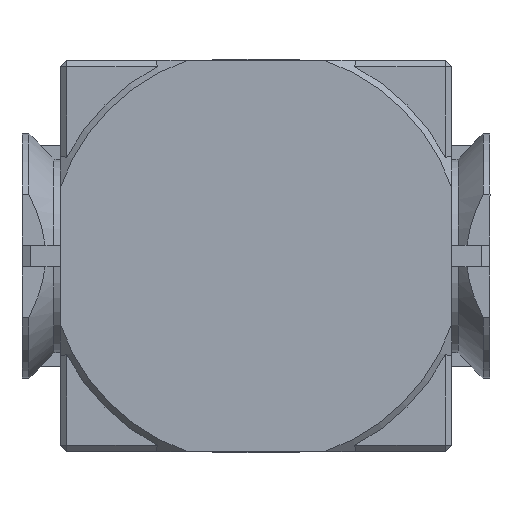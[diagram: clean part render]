
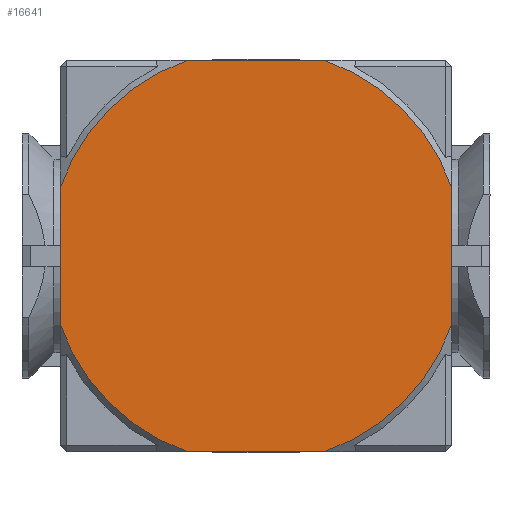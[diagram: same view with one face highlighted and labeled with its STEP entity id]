
A CAD part, front view. The second image highlights one B-rep face of the part: STEP entity #16641.
In plain terms, the highlighted planar face has unit normal (0, -1, 0).
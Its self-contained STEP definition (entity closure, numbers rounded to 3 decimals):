
#1756 = CARTESIAN_POINT ( 'NONE',  ( 11.122, -40.7, 31.6 ) ) ;
#1757 = DIRECTION ( 'NONE',  ( -1., 0., 0. ) ) ;
#1758 = VECTOR ( 'NONE', #1757, 1000. ) ;
#1759 = CARTESIAN_POINT ( 'NONE',  ( 11.122, -40.7, 31.6 ) ) ;
#1760 = LINE ( 'NONE', #1759, #1758 ) ;
#1761 = CARTESIAN_POINT ( 'NONE',  ( -11.122, -40.7, 31.6 ) ) ;
#1933 = CARTESIAN_POINT ( 'NONE',  ( -11.122, -40.7, -31.6 ) ) ;
#1934 = DIRECTION ( 'NONE',  ( 1., 0., 0. ) ) ;
#1935 = VECTOR ( 'NONE', #1934, 1000. ) ;
#1936 = CARTESIAN_POINT ( 'NONE',  ( -11.122, -40.7, -31.6 ) ) ;
#1937 = LINE ( 'NONE', #1936, #1935 ) ;
#1938 = CARTESIAN_POINT ( 'NONE',  ( 11.122, -40.7, -31.6 ) ) ;
#2359 = CARTESIAN_POINT ( 'NONE',  ( -31.6, -40.7, 11.122 ) ) ;
#2360 = CARTESIAN_POINT ( 'NONE',  ( -31.6, -40.7, -11.122 ) ) ;
#3176 = CARTESIAN_POINT ( 'NONE',  ( 31.6, -40.7, -11.122 ) ) ;
#3177 = DIRECTION ( 'NONE',  ( 0., 0., 1. ) ) ;
#3178 = VECTOR ( 'NONE', #3177, 1000. ) ;
#3179 = CARTESIAN_POINT ( 'NONE',  ( 31.6, -40.7, -11.122 ) ) ;
#3180 = LINE ( 'NONE', #3179, #3178 ) ;
#3305 = CARTESIAN_POINT ( 'NONE',  ( 31.6, -40.7, 11.122 ) ) ;
#3345 = DIRECTION ( 'NONE',  ( 0., 0., -1. ) ) ;
#3346 = VECTOR ( 'NONE', #3345, 1000. ) ;
#3347 = CARTESIAN_POINT ( 'NONE',  ( -31.6, -40.7, 11.122 ) ) ;
#3348 = LINE ( 'NONE', #3347, #3346 ) ;
#6913 = DIRECTION ( 'NONE',  ( 1., 0., 0. ) ) ;
#6914 = DIRECTION ( 'NONE',  ( 0., -1., 0. ) ) ;
#6915 = CARTESIAN_POINT ( 'NONE',  ( 0., -40.7, 0. ) ) ;
#6916 = AXIS2_PLACEMENT_3D ( 'NONE', #6915, #6914, #6913 ) ;
#6917 = CIRCLE ( 'NONE', #6916, 33.5 ) ;
#6944 = DIRECTION ( 'NONE',  ( 1., 0., 0. ) ) ;
#6945 = DIRECTION ( 'NONE',  ( 0., -1., 0. ) ) ;
#6946 = CARTESIAN_POINT ( 'NONE',  ( 0., -40.7, 0. ) ) ;
#6947 = AXIS2_PLACEMENT_3D ( 'NONE', #6946, #6945, #6944 ) ;
#6948 = PLANE ( 'NONE',  #6947 ) ;
#6949 = FACE_OUTER_BOUND ( 'NONE', #16642, .T. ) ;
#6950 = DIRECTION ( 'NONE',  ( 1., 0., 0. ) ) ;
#6951 = DIRECTION ( 'NONE',  ( 0., -1., 0. ) ) ;
#6952 = CARTESIAN_POINT ( 'NONE',  ( 0., -40.7, 0. ) ) ;
#6953 = AXIS2_PLACEMENT_3D ( 'NONE', #6952, #6951, #6950 ) ;
#6957 = CIRCLE ( 'NONE', #6953, 33.5 ) ;
#6961 = DIRECTION ( 'NONE',  ( 1., 0., 0. ) ) ;
#6962 = DIRECTION ( 'NONE',  ( 0., -1., 0. ) ) ;
#6963 = CARTESIAN_POINT ( 'NONE',  ( 0., -40.7, 0. ) ) ;
#6964 = AXIS2_PLACEMENT_3D ( 'NONE', #6963, #6962, #6961 ) ;
#6965 = CIRCLE ( 'NONE', #6964, 33.5 ) ;
#7280 = DIRECTION ( 'NONE',  ( 1., 0., 0. ) ) ;
#7281 = DIRECTION ( 'NONE',  ( 0., -1., 0. ) ) ;
#7282 = CARTESIAN_POINT ( 'NONE',  ( 0., -40.7, 0. ) ) ;
#7283 = AXIS2_PLACEMENT_3D ( 'NONE', #7282, #7281, #7280 ) ;
#7284 = CIRCLE ( 'NONE', #7283, 33.5 ) ;
#11837 = VERTEX_POINT ( 'NONE', #1761 ) ;
#11839 = EDGE_CURVE ( 'NONE', #11840, #11837, #1760, .T. ) ;
#11840 = VERTEX_POINT ( 'NONE', #1756 ) ;
#11917 = VERTEX_POINT ( 'NONE', #1938 ) ;
#11919 = EDGE_CURVE ( 'NONE', #11920, #11917, #1937, .T. ) ;
#11920 = VERTEX_POINT ( 'NONE', #1933 ) ;
#12206 = VERTEX_POINT ( 'NONE', #2360 ) ;
#12207 = VERTEX_POINT ( 'NONE', #2359 ) ;
#12639 = EDGE_CURVE ( 'NONE', #12207, #12206, #3348, .T. ) ;
#12721 = VERTEX_POINT ( 'NONE', #3305 ) ;
#12723 = EDGE_CURVE ( 'NONE', #12724, #12721, #3180, .T. ) ;
#12724 = VERTEX_POINT ( 'NONE', #3176 ) ;
#16617 = EDGE_CURVE ( 'NONE', #11837, #12207, #6917, .T. ) ;
#16625 = EDGE_CURVE ( 'NONE', #12206, #11920, #6965, .T. ) ;
#16640 = EDGE_CURVE ( 'NONE', #12721, #11840, #6957, .T. ) ;
#16641 = ADVANCED_FACE ( 'NONE', ( #6949 ), #6948, .T. ) ;
#16642 = EDGE_LOOP ( 'NONE', ( #16643, #16652, #16653, #16654, #16655, #16656, #16657, #16658 ) ) ;
#16643 = ORIENTED_EDGE ( 'NONE', *, *, #16617, .T. ) ;
#16652 = ORIENTED_EDGE ( 'NONE', *, *, #12639, .T. ) ;
#16653 = ORIENTED_EDGE ( 'NONE', *, *, #16625, .T. ) ;
#16654 = ORIENTED_EDGE ( 'NONE', *, *, #11919, .T. ) ;
#16655 = ORIENTED_EDGE ( 'NONE', *, *, #16686, .T. ) ;
#16656 = ORIENTED_EDGE ( 'NONE', *, *, #12723, .T. ) ;
#16657 = ORIENTED_EDGE ( 'NONE', *, *, #16640, .T. ) ;
#16658 = ORIENTED_EDGE ( 'NONE', *, *, #11839, .T. ) ;
#16686 = EDGE_CURVE ( 'NONE', #11917, #12724, #7284, .T. ) ;
